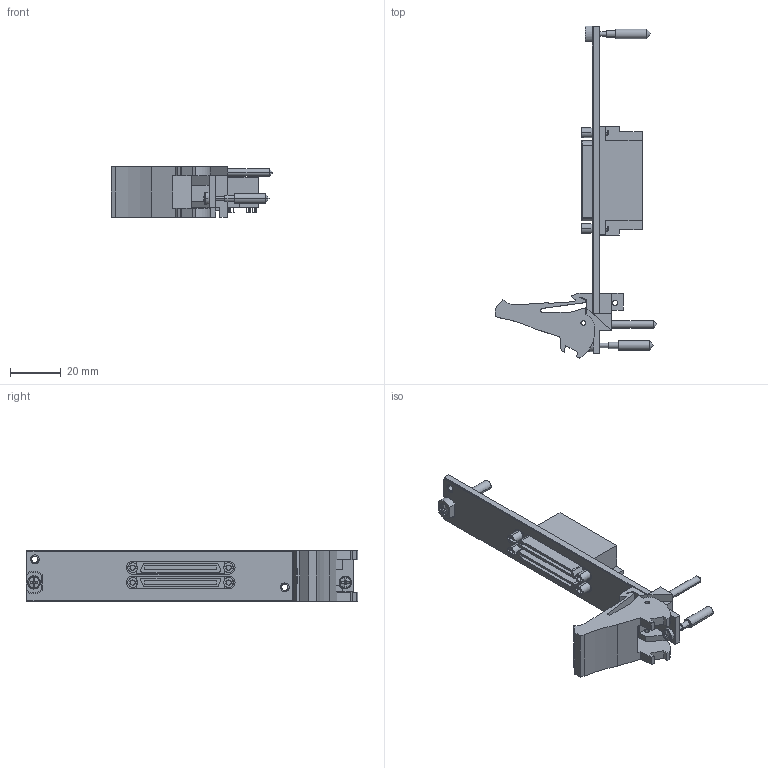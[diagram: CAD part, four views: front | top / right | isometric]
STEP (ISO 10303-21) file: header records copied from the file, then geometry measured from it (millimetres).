
FILE_DESCRIPTION((''),'2;1');
FILE_NAME('CU_PXIE-6358','2011-02-28T',('jjorden'),(''),'PRO/ENGINEER BY PARAMETRIC TECHNOLOGY CORPORATION, 2010230','PRO/ENGINEER BY PARAMETRIC TECHNOLOGY CORPORATION, 2010230','');
FILE_SCHEMA(('CONFIG_CONTROL_DESIGN'));
Length unit declared in the file: inch
Products named in the file (1): CU_PXIE-6358
Bounding box: 63.53 x 130.5 x 20.02 mm (x, y, z)
Volume: 21991.7 mm3; surface area: 16514.9 mm2
Topology: 25 solids, 27 shells, 539 faces, 1316 edges, 849 vertices
Faces by surface type: plane 336, cylinder 173, cone 22, torus 4, sphere 4
Entity records: 15763 total; most frequent: CARTESIAN_POINT 2907, DIRECTION 2739, ORIENTED_EDGE 2600, EDGE_CURVE 1300, AXIS2_PLACEMENT_3D 947, VECTOR 845, LINE 845, VERTEX_POINT 845
